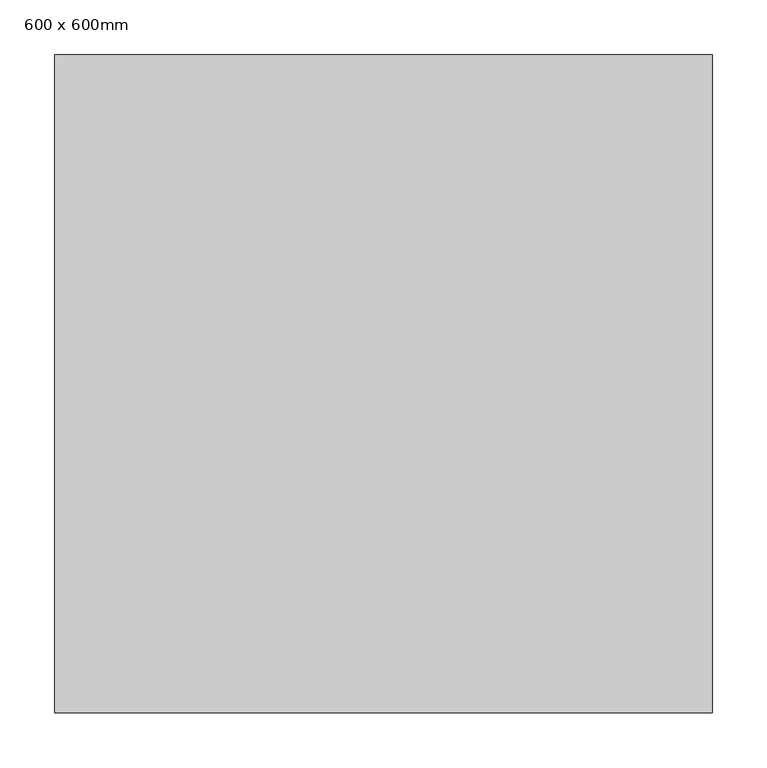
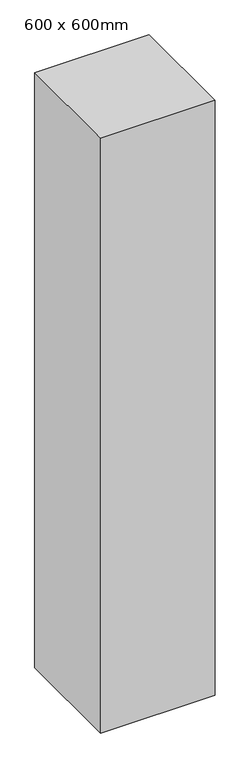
"""IFC4 building model written with IfcOpenShell, lengths in millimetres: column geometry, 混凝土 - 矩形 - 柱 : 600 x 600mm."""

from ifc_helpers import new_model, si_unit, frame, origin, place, context, project, spatial, polyline, outline, extrude, source, transform, mapped, element, save


def column_600_x_600mm_867b5594(model_context):
    return source(origin(), model_context, "Body", "SweptSolid", [
        extrude(outline(polyline([(300.0, 300.0), (300.0, -300.0), (-300.0, -300.0), (-300.0, 300.0), (300.0, 300.0)])), frame((0.0, 0.0, 13800.0), z_axis=(0.0, 0.0, 1.0), x_axis=(1.0, 0.0, 0.0)), (0.0, 0.0, 1.0), 3300.0),
    ])


if __name__ == "__main__":
    model = new_model("IFC4")
    model_context = context("Model", 3, world=origin())
    ifc_project = project(units=[si_unit("LENGTHUNIT", "METRE", prefix="MILLI")], contexts=[model_context])
    site = spatial("IfcSite", under=ifc_project)
    building = spatial("IfcBuilding", under=site)
    placement = place(None, origin())
    column_600_x_600mm_shape = column_600_x_600mm_867b5594(model_context)
    element("IfcColumn", 1, ObjectType="混凝土 - 矩形 - 柱 : 600 x 600mm", at=placement, inside=building, context=model_context, shape_type="MappedRepresentation", body=[
        mapped(column_600_x_600mm_shape, transform((0.0, 0.0, 0.0), x_axis=(1.0, 0.0, 0.0), y_axis=(0.0, 1.0, 0.0), z_axis=(0.0, 0.0, 1.0))),
    ])
    save(model, "model.ifc")
